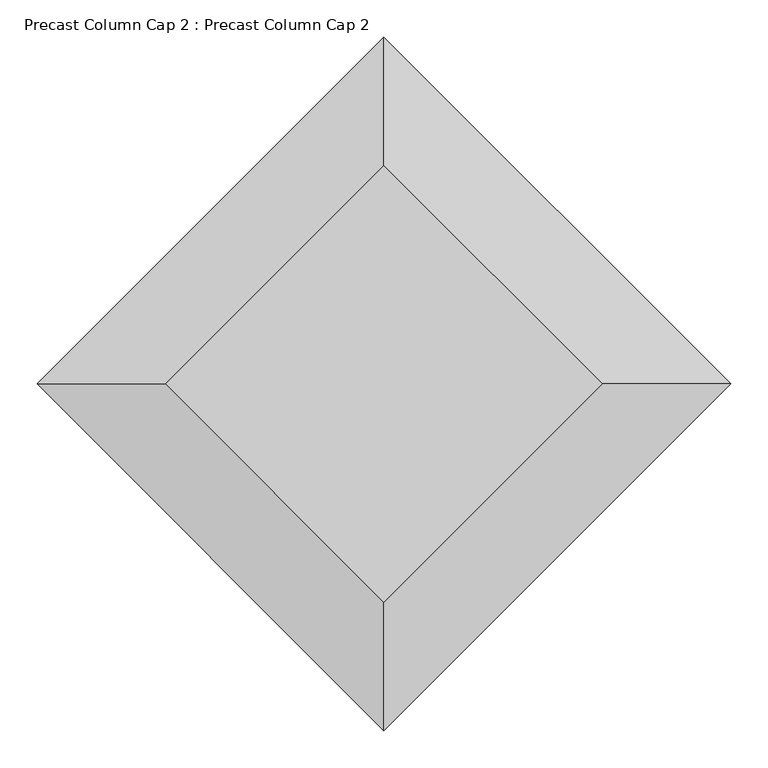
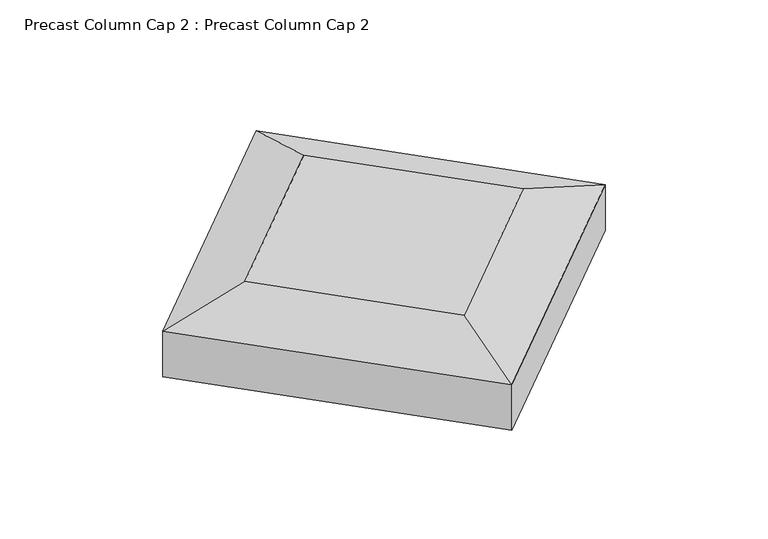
"""IFC4 building model written with IfcOpenShell, lengths in millimetres: proxy geometry, Precast Column Cap 2 : Precast Column Cap 2."""

from ifc_helpers import new_model, si_unit, origin, place, context, project, spatial, faceted_brep, source, transform, mapped, element, save


def precast_column_cap_2_precast_column_cap_2_c5dd9a02(model_context):
    return source(origin(), model_context, "Body", "Brep", [
        faceted_brep([(-15913.7362098, -8258.1510104, 33680.4), (-15619.6328219, -7964.0476225, 33680.4), (-15913.7362098, -7669.9442345, 33680.4), (-16207.8395978, -7964.0476225, 33680.4), (-15913.7362098, -8431.0209408, 33629.6), (-15446.7628915, -7964.0476225, 33629.6), (-15913.7362098, -7497.0743042, 33629.6), (-16380.7095281, -7964.0476225, 33629.6), (-15913.7362098, -8431.0209408, 33528.0), (-16380.7095281, -7964.0476225, 33528.0), (-15913.7362098, -7497.0743042, 33528.0), (-15446.7628915, -7964.0476225, 33528.0)], [[[0, 1, 2, 3]], [[1, 0, 4, 5]], [[2, 1, 5, 6]], [[3, 2, 6, 7]], [[0, 3, 7, 4]], [[8, 9, 10, 11]], [[8, 11, 5, 4]], [[11, 10, 6, 5]], [[10, 9, 7, 6]], [[9, 8, 4, 7]]]),
    ])


if __name__ == "__main__":
    model = new_model("IFC4")
    model_context = context("Model", 3, world=origin())
    ifc_project = project(units=[si_unit("LENGTHUNIT", "METRE", prefix="MILLI")], contexts=[model_context])
    site = spatial("IfcSite", under=ifc_project)
    building = spatial("IfcBuilding", under=site)
    placement = place(None, origin())
    precast_column_cap_2_precast_column_cap_2_shape = precast_column_cap_2_precast_column_cap_2_c5dd9a02(model_context)
    element("IfcBuildingElementProxy", 1, Name="Precast Column Cap 2 : Precast Column Cap 2", ObjectType="Precast Column Cap 2 : Precast Column Cap 2", at=placement, inside=building, context=model_context, shape_type="MappedRepresentation", body=[
        mapped(precast_column_cap_2_precast_column_cap_2_shape, transform((0.0, 0.0, 0.0), x_axis=(1.0, 0.0, 0.0), y_axis=(0.0, 1.0, 0.0), z_axis=(0.0, 0.0, 1.0))),
    ])
    save(model, "model.ifc")
